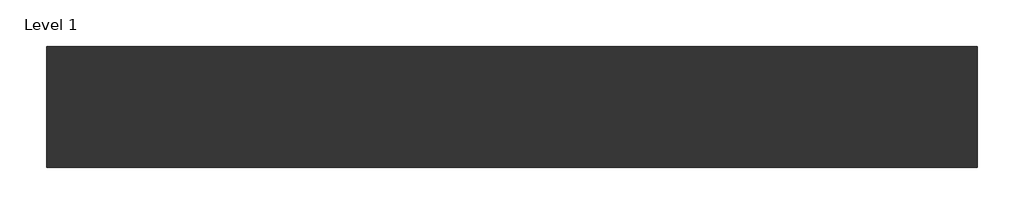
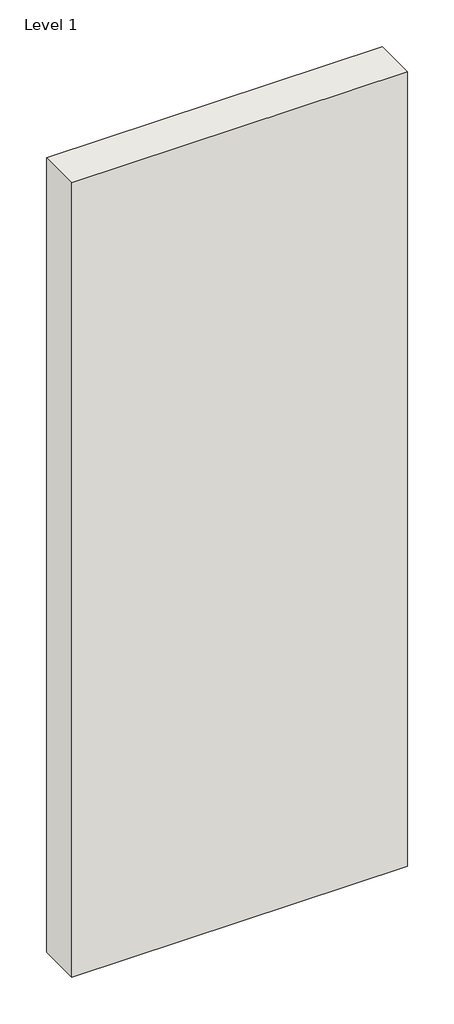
# One storey: 1 wall.
"""IFC4 building model written with IfcOpenShell, lengths in millimetres."""

from ifc_helpers import new_model, si_unit, origin, origin_with_axes, place, context, project, spatial, polyline, outline, extrude, element, save

model = new_model("IFC4")

# Units and contexts
model_context = context("Model", 3, world=origin())
ifc_project = project(units=[si_unit("LENGTHUNIT", "METRE", prefix="MILLI")], contexts=[model_context])

# Site, building, storey
site = spatial("IfcSite", under=ifc_project)
building = spatial("IfcBuilding", under=site)
storey = spatial("IfcBuildingStorey", under=building, Name="Level 1", Elevation=0.0)

# Wall
placement = place(None, origin())
element("IfcWall", 1, ObjectType="RIGIPS - 3.40.03 - EI 60, REI 60 - 5000 - 47dB", at=placement, inside=storey, context=model_context, shape_type="SweptSolid", body=[
    extrude(outline(polyline([(1000.0, -65.0), (0.0, -65.0), (0.0, 65.0), (1000.0, 65.0), (1000.0, -65.0)])), origin_with_axes(), (0.0, 0.0, 1.0), 2500.0),
])

save(model, "model.ifc")
